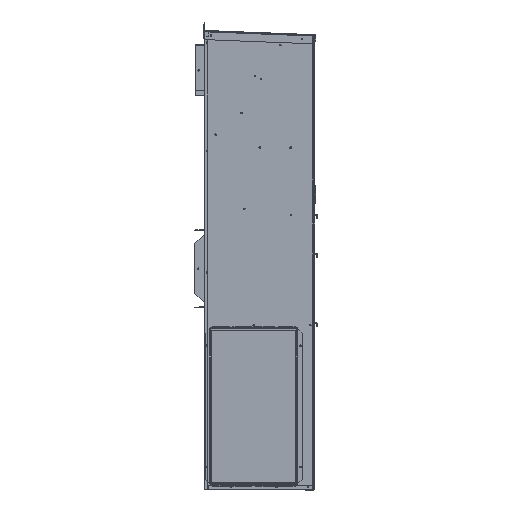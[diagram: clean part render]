
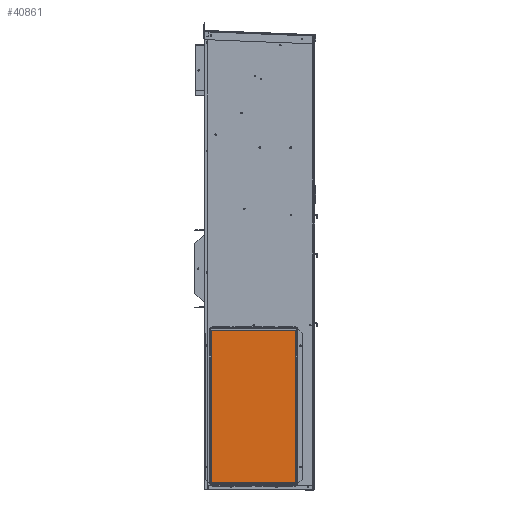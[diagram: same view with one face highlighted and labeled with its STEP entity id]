
A CAD part, top view. The second image highlights one B-rep face of the part: STEP entity #40861.
In plain terms, the highlighted planar face has unit normal (0, 0, 1).
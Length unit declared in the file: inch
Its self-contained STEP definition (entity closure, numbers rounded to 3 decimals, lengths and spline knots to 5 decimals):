
#1731 = DIRECTION ( 'NONE',  ( 0., 0., 1. ) ) ;
#3055 = EDGE_CURVE ( 'NONE', #20652, #8297, #7120, .T. ) ;
#3529 = VECTOR ( 'NONE', #47563, 39.37008 ) ;
#4862 = CARTESIAN_POINT ( 'NONE',  ( 40.9221, 35.985, 63.55488 ) ) ;
#5947 = LINE ( 'NONE', #12851, #25313 ) ;
#7120 = LINE ( 'NONE', #10993, #27640 ) ;
#8297 = VERTEX_POINT ( 'NONE', #14219 ) ;
#9750 = AXIS2_PLACEMENT_3D ( 'NONE', #17013, #1731, #28782 ) ;
#10993 = CARTESIAN_POINT ( 'NONE',  ( 27.9681, 35.985, 63.55488 ) ) ;
#12743 = ORIENTED_EDGE ( 'NONE', *, *, #47596, .T. ) ;
#12851 = CARTESIAN_POINT ( 'NONE',  ( 27.9681, 35.985, 63.55488 ) ) ;
#13688 = VERTEX_POINT ( 'NONE', #47372 ) ;
#14096 = EDGE_LOOP ( 'NONE', ( #20682, #12743, #44163, #35513 ) ) ;
#14219 = CARTESIAN_POINT ( 'NONE',  ( 27.9681, 12.53557, 63.55488 ) ) ;
#15825 = DIRECTION ( 'NONE',  ( 0., 1., 0. ) ) ;
#16854 = EDGE_CURVE ( 'NONE', #34682, #20652, #5947, .T. ) ;
#17013 = CARTESIAN_POINT ( 'NONE',  ( 27.9681, 12.53557, 63.55488 ) ) ;
#19704 = CARTESIAN_POINT ( 'NONE',  ( 40.9221, 35.985, 63.55488 ) ) ;
#20652 = VERTEX_POINT ( 'NONE', #32250 ) ;
#20682 = ORIENTED_EDGE ( 'NONE', *, *, #3055, .T. ) ;
#21083 = PLANE ( 'NONE',  #9750 ) ;
#23368 = EDGE_CURVE ( 'NONE', #13688, #34682, #30043, .T. ) ;
#24120 = LINE ( 'NONE', #28233, #3529 ) ;
#25313 = VECTOR ( 'NONE', #32774, 39.37008 ) ;
#27640 = VECTOR ( 'NONE', #38774, 39.37008 ) ;
#28233 = CARTESIAN_POINT ( 'NONE',  ( 27.9681, 12.53557, 63.55488 ) ) ;
#28782 = DIRECTION ( 'NONE',  ( 1., 0., 0. ) ) ;
#30043 = LINE ( 'NONE', #19704, #39107 ) ;
#32250 = CARTESIAN_POINT ( 'NONE',  ( 27.9681, 35.985, 63.55488 ) ) ;
#32774 = DIRECTION ( 'NONE',  ( -1., 0., 0. ) ) ;
#34682 = VERTEX_POINT ( 'NONE', #4862 ) ;
#35513 = ORIENTED_EDGE ( 'NONE', *, *, #16854, .T. ) ;
#38774 = DIRECTION ( 'NONE',  ( 0., -1., 0. ) ) ;
#39107 = VECTOR ( 'NONE', #15825, 39.37008 ) ;
#39395 = FACE_OUTER_BOUND ( 'NONE', #14096, .T. ) ;
#40861 = ADVANCED_FACE ( 'NONE', ( #39395 ), #21083, .T. ) ;
#44163 = ORIENTED_EDGE ( 'NONE', *, *, #23368, .T. ) ;
#47372 = CARTESIAN_POINT ( 'NONE',  ( 40.9221, 12.53557, 63.55488 ) ) ;
#47563 = DIRECTION ( 'NONE',  ( 1., 0., 0. ) ) ;
#47596 = EDGE_CURVE ( 'NONE', #8297, #13688, #24120, .T. ) ;
